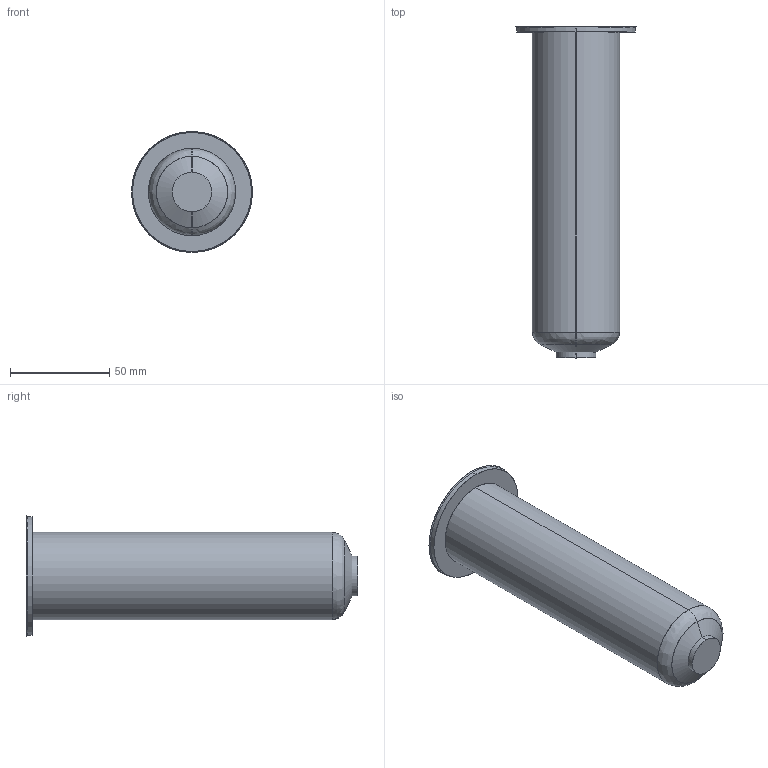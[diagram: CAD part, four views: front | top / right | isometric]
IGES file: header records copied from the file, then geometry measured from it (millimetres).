
Start section: SolidWorks IGES file using analytic representation for surfaces
Global section: file name: C:\Documents and Settings\ws-20\Desktop\TEM\Sede UGER6607-M-A C-164 L-209.IGS; native system: SolidWorks 2012; preprocessor: SolidWorks 2012; author: ws-20; date: 120417.105523; units: millimetre
Bounding box: 61 x 167.42 x 61 mm (x, y, z)
Surface area: 28059.6 mm2 (no closed solid volume)
Topology: 0 solids, 0 shells, 15 faces, 272 edges, 272 vertices
Faces by surface type: revolution 10, bspline 5
